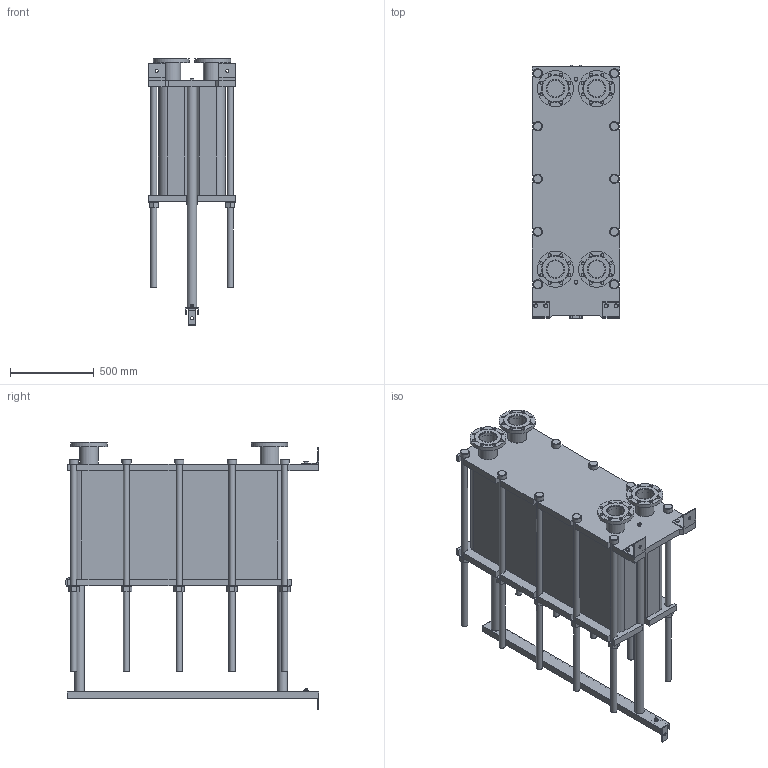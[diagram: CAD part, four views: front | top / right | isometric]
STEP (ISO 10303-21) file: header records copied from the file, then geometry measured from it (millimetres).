
FILE_DESCRIPTION(/* description */ (''),/* implementation_level */ '2;1');
FILE_NAME(/* name */ 'C:\Users\zhuro\Desktop\ENCO\TO\ЭН-04\ЭН-0,5-04-187-1.stp',/* time_stamp */ '2022-06-06T11:01:09+03:00',/* author */ ('zhuro'),/* organization */ (''),/* preprocessor_version */ 'ST-DEVELOPER v18.1',/* originating_system */ 'Autodesk Inventor 2022',/* authorisation */ '');
FILE_SCHEMA (('AUTOMOTIVE_DESIGN { 1 0 10303 214 3 1 1 }'));
Length unit declared in the file: millimetre
Products named in the file (1): ЭН-0,5-04-187-1
Bounding box: 520 x 1510 x 1593.5 mm (x, y, z)
Volume: 398306824.8 mm3; surface area: 10268400.2 mm2
Topology: 45 solids, 45 shells, 668 faces, 1611 edges, 1048 vertices
Faces by surface type: plane 457, cylinder 166, cone 39, torus 6
Full cylindrical faces by diameter (mm): 8 x4, 10 x2, 16 x8, 18 x35, 36 x25, 40 x2, 42 x1, 45 x4, 54 x10, 57 x2, 60 x10, 68 x2, 100 x4, 110 x8, 215 x4
Entity records: 23607 total; most frequent: CARTESIAN_POINT 7348, DIRECTION 3371, ORIENTED_EDGE 3142, EDGE_CURVE 1571, AXIS2_PLACEMENT_3D 1199, VERTEX_POINT 1044, LINE 973, VECTOR 973
